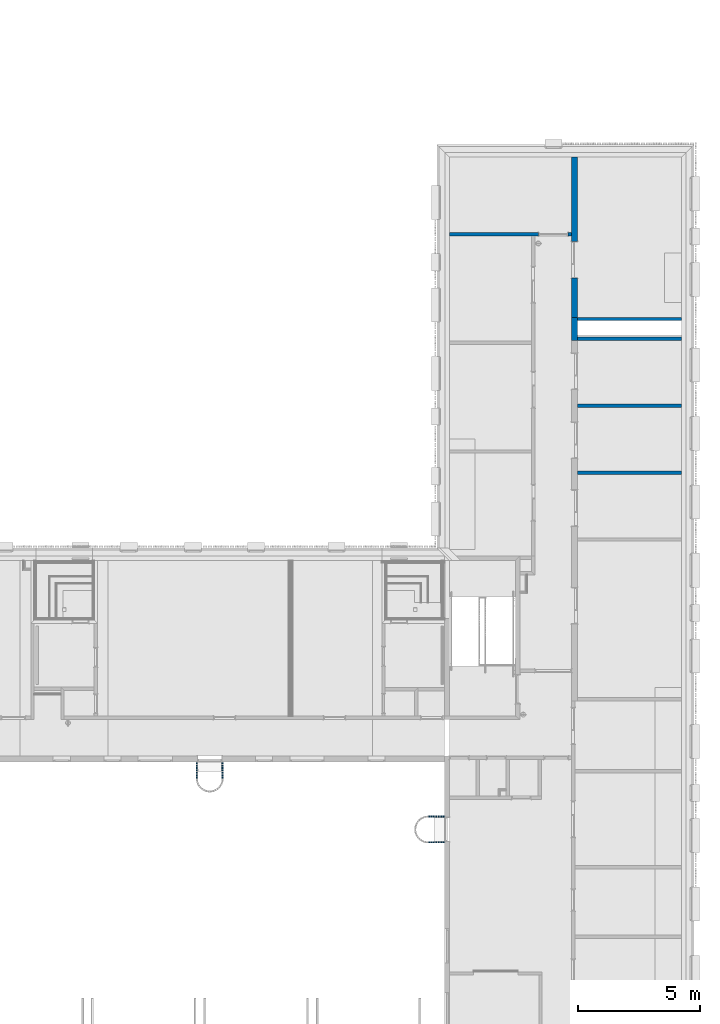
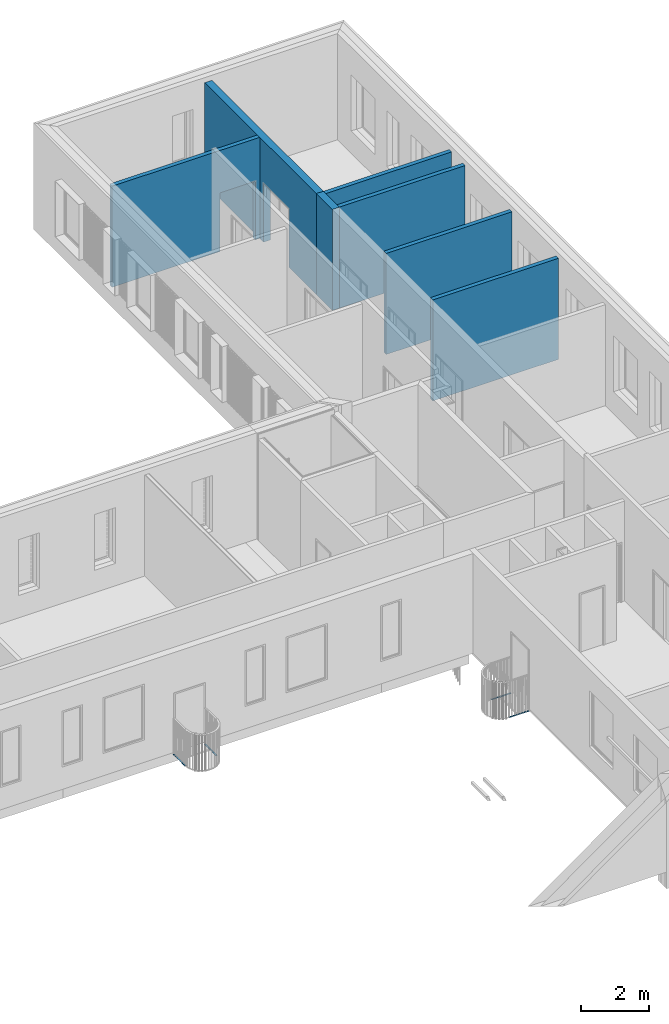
# One storey, part 13 of 100: 11 walls, 2 openings.
"""IFC2X3 building model written with IfcOpenShell, lengths in millimetres."""

from ifc_helpers import new_model, entity, si_unit, converted_unit, derived_unit, money_unit, direction, frame, origin_with_axes, origin_2d_with_axis, place, context, subcontext, project, spatial, polyline, rectangle, outline, extrude, material, layer, layer_set, layer_usage, type_object, element, save


model = new_model("IFC2X3")

# Units and contexts
model_context = context("Model", 3, precision=0.01, world=origin_with_axes(), true_north=direction((0.0, 1.0)))
body_context = subcontext(model_context, "Body", "Model", "MODEL_VIEW")
ifc_project = project(units=[si_unit("LENGTHUNIT", "METRE", prefix="MILLI"), si_unit("AREAUNIT", "SQUARE_METRE"), si_unit("VOLUMEUNIT", "CUBIC_METRE"), converted_unit("PLANEANGLEUNIT", "DEGREE", entity("IfcPlaneAngleMeasure", 0.0174532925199), si_unit("PLANEANGLEUNIT", "RADIAN"), dimensions=[0, 0, 0, 0, 0, 0, 0]), si_unit("SOLIDANGLEUNIT", "STERADIAN"), money_unit("EUR"), converted_unit("TIMEUNIT", "Year", entity("IfcTimeMeasure", 31556926.0), si_unit("TIMEUNIT", "SECOND"), dimensions=[0, 0, 1, 0, 0, 0, 0]), si_unit("MASSUNIT", "GRAM", prefix="KILO"), si_unit("THERMODYNAMICTEMPERATUREUNIT", "DEGREE_CELSIUS"), si_unit("LUMINOUSINTENSITYUNIT", "LUMEN"), si_unit("ENERGYUNIT", "JOULE", prefix="MEGA"), derived_unit("THERMALCONDUCTANCEUNIT", [(si_unit("POWERUNIT", "WATT"), 1), (si_unit("LENGTHUNIT", "METRE"), -1), (si_unit("THERMODYNAMICTEMPERATUREUNIT", "KELVIN"), -1)]), derived_unit("SPECIFICHEATCAPACITYUNIT", [(si_unit("ENERGYUNIT", "JOULE"), 1), (si_unit("MASSUNIT", "GRAM", prefix="KILO"), -1), (si_unit("THERMODYNAMICTEMPERATUREUNIT", "KELVIN"), -1)]), derived_unit("MASSDENSITYUNIT", [(si_unit("MASSUNIT", "GRAM", prefix="KILO"), 1), (si_unit("VOLUMEUNIT", "CUBIC_METRE"), -1)])], contexts=[model_context])

# Site, building, storey
site_placement = place(None, origin_with_axes())
site = spatial("IfcSite", under=ifc_project, at=site_placement, Name="Politse- ja Piirivalveameti ning Päästeameti ühishoone", CompositionType="ELEMENT")
building_placement = place(site_placement, origin_with_axes())
building = spatial("IfcBuilding", under=site, at=building_placement, Name="Politse- ja Piirivalveameti ning Päästeameti ühishoone", CompositionType="ELEMENT")
storey_placement = place(building_placement, frame((0.0, 0.0, 3800.0), z_axis=(0.0, 0.0, 1.0), x_axis=(1.0, 0.0, 0.0)))
storey = spatial("IfcBuildingStorey", under=building, at=storey_placement, Name="Teine korrus", CompositionType="ELEMENT", Elevation=3800.0)

# Wall, opening
ifc_material_1 = material(Name="KON-05_Betoon Plokk - Konstuktsioon")
ifc_layer_1 = layer(ifc_material_1, 240.0, ventilated="UNKNOWN")
ifc_layer_set_1 = layer_set([ifc_layer_1], Name="SS-04_Sisesein 240")
ifc_layer_usage_1 = layer_usage(ifc_layer_set_1, "AXIS2", "POSITIVE", 0.0)
wall_type_1 = type_object("IfcWallType", Name="SS-04_Sisesein 240 240", PredefinedType="NOTDEFINED")
wall_1_placement = place(storey_placement, frame((65160.5595507, 37499.9521318, 0.0), z_axis=(0.0, 0.0, 1.0), x_axis=(0.0, -1.0, 0.0)))
wall_1 = element("IfcWallStandardCase", 1, at=wall_1_placement, inside=storey, type_object=wall_type_1, material=ifc_layer_usage_1, Name="SS-04", context=body_context, shape_type="SweptSolid", body=[
    extrude(outline(polyline([(0.0, 0.0), (6550.14299276, 0.0), (6550.14299276, 240.0), (0.0, 240.0), (0.0, 0.0)])), origin_with_axes(), (0.0, 0.0, 1.0), 3620.0),
])
opening_1_placement = place(wall_1_placement, frame((4203.02359896, 0.0, 0.0), z_axis=(0.0, 0.0, 1.0), x_axis=(1.0, 0.0, 0.0)))
element("IfcOpeningElement", 2, at=opening_1_placement, cuts=wall_1, Name="SU-02-5", context=body_context, shape_type="SweptSolid", body=[
    extrude(rectangle(XDim=1500.0, YDim=2100.0, at=origin_2d_with_axis()), frame((0.0, 240.0, 1050.0), z_axis=(0.0, 1.0, 0.0), x_axis=(-1.0, 0.0, 0.0)), (0.0, 0.0, -1.0), 720.0),
    extrude(rectangle(XDim=1574.0, YDim=2137.0, at=origin_2d_with_axis()), frame((0.0, 240.0, 1068.5), z_axis=(0.0, 1.0, 0.0), x_axis=(-1.0, 0.0, 0.0)), (0.0, 0.0, 1.0), 240.0),
    extrude(rectangle(XDim=1574.0, YDim=2137.0, at=origin_2d_with_axis()), frame((0.0, 0.0, 1068.5), z_axis=(0.0, -1.0, 0.0), x_axis=(-1.0, 0.0, 0.0)), (0.0, 0.0, 1.0), 240.0),
])

# Wall
ifc_layer_usage_2 = layer_usage(ifc_layer_set_1, "AXIS2", "POSITIVE", 0.0)
wall_2_placement = place(storey_placement, frame((65160.5595507, 30949.809139, 0.0), z_axis=(0.0, 0.0, 1.0), x_axis=(0.0, -1.0, 0.0)))
element("IfcWallStandardCase", 3, at=wall_2_placement, inside=storey, type_object=wall_type_1, material=ifc_layer_usage_2, Name="SS-04", context=body_context, shape_type="SweptSolid", body=[
    extrude(outline(polyline([(0.0, 0.0), (940.0, 0.0), (940.0, 240.0), (0.0, 240.0), (0.0, 0.0)])), origin_with_axes(), (0.0, 0.0, 1.0), 3620.0),
])

# Wall, opening
ifc_layer_2 = layer(ifc_material_1, 140.0, ventilated="UNKNOWN")
ifc_layer_set_2 = layer_set([ifc_layer_2], Name="SS-02_Sisesein 140")
ifc_layer_usage_3 = layer_usage(ifc_layer_set_2, "AXIS2", "NEGATIVE", 0.0)
wall_type_2 = type_object("IfcWallType", Name="SS-02_Sisesein 140 140", PredefinedType="NOTDEFINED")
wall_3_placement = place(storey_placement, frame((60160.5519118, 34409.9754727, 0.0), z_axis=(0.0, 0.0, 1.0), x_axis=(1.0, 0.0, 0.0)))
wall_3 = element("IfcWallStandardCase", 4, at=wall_3_placement, inside=storey, type_object=wall_type_2, material=ifc_layer_usage_3, Name="SS-02", context=body_context, shape_type="SweptSolid", body=[
    extrude(outline(polyline([(0.0, -140.0), (5000.00763889, -140.0), (5000.00763889, 0.0), (0.0, 0.0), (0.0, -140.0)])), origin_with_axes(), (0.0, 0.0, 1.0), 3620.0),
])
opening_2_placement = place(wall_3_placement, frame((4249.74755766, 0.0, 0.0), z_axis=(0.0, 0.0, 1.0), x_axis=(1.0, 0.0, 0.0)))
element("IfcOpeningElement", 5, at=opening_2_placement, cuts=wall_3, Name="SU-02-6", context=body_context, shape_type="SweptSolid", body=[
    extrude(rectangle(XDim=1200.0, YDim=2100.0, at=origin_2d_with_axis()), frame((0.0, 140.0, 1050.0), z_axis=(0.0, 1.0, 0.0), x_axis=(-1.0, 0.0, 0.0)), (0.0, 0.0, -1.0), 420.0),
    extrude(rectangle(XDim=1274.0, YDim=2137.0, at=origin_2d_with_axis()), frame((0.0, 0.0, 1068.5), z_axis=(0.0, 1.0, 0.0), x_axis=(-1.0, 0.0, 0.0)), (0.0, 0.0, 1.0), 140.0),
    extrude(rectangle(XDim=1274.0, YDim=2137.0, at=origin_2d_with_axis()), frame((0.0, -140.0, 1068.5), z_axis=(0.0, -1.0, 0.0), x_axis=(-1.0, 0.0, 0.0)), (0.0, 0.0, 1.0), 140.0),
])

# Walls
ifc_layer_usage_4 = layer_usage(ifc_layer_set_2, "AXIS2", "NEGATIVE", 0.0)
wall_4_placement = place(storey_placement, frame((65160.5595507, 24669.809139, 0.0), z_axis=(0.0, 0.0, 1.0), x_axis=(1.0, 0.0, 0.0)))
element("IfcWallStandardCase", 6, at=wall_4_placement, inside=storey, type_object=wall_type_2, material=ifc_layer_usage_4, Name="SS-02", context=body_context, shape_type="SweptSolid", body=[
    extrude(outline(polyline([(240.0, -140.0), (4500.006875, -140.0), (4500.006875, 0.0), (240.0, 0.0), (240.0, -140.0)])), origin_with_axes(), (0.0, 0.0, 1.0), 3620.0),
])
ifc_layer_usage_5 = layer_usage(ifc_layer_set_2, "AXIS2", "NEGATIVE", 0.0)
wall_5_placement = place(storey_placement, frame((65160.5595507, 30149.809139, 0.0), z_axis=(0.0, 0.0, 1.0), x_axis=(1.0, 0.0, 0.0)))
element("IfcWallStandardCase", 7, at=wall_5_placement, inside=storey, type_object=wall_type_2, material=ifc_layer_usage_5, Name="SS-02", context=body_context, shape_type="SweptSolid", body=[
    extrude(outline(polyline([(240.0, -140.0), (4500.006875, -140.0), (4500.006875, 0.0), (240.0, 0.0), (240.0, -140.0)])), origin_with_axes(), (0.0, 0.0, 1.0), 3620.0),
])
ifc_layer_usage_6 = layer_usage(ifc_layer_set_2, "AXIS2", "NEGATIVE", 0.0)
wall_6_placement = place(storey_placement, frame((65160.5595507, 27409.809139, 0.0), z_axis=(0.0, 0.0, 1.0), x_axis=(1.0, 0.0, 0.0)))
element("IfcWallStandardCase", 8, at=wall_6_placement, inside=storey, type_object=wall_type_2, material=ifc_layer_usage_6, Name="SS-02", context=body_context, shape_type="SweptSolid", body=[
    extrude(outline(polyline([(240.0, -140.0), (4500.006875, -140.0), (4500.006875, 0.0), (240.0, 0.0), (240.0, -140.0)])), origin_with_axes(), (0.0, 0.0, 1.0), 3620.0),
])
ifc_layer_usage_7 = layer_usage(ifc_layer_set_2, "AXIS2", "NEGATIVE", 0.0)
wall_7_placement = place(storey_placement, frame((65160.5595507, 30949.809139, 0.0), z_axis=(0.0, 0.0, 1.0), x_axis=(1.0, 0.0, 0.0)))
element("IfcWallStandardCase", 9, at=wall_7_placement, inside=storey, type_object=wall_type_2, material=ifc_layer_usage_7, Name="SS-02", context=body_context, shape_type="SweptSolid", body=[
    extrude(outline(polyline([(0.0, -140.0), (4500.006875, -140.0), (4500.006875, 0.0), (0.0, 0.0), (0.0, -140.0)])), origin_with_axes(), (0.0, 0.0, 1.0), 3620.0),
])
ifc_material_2 = material(Name="ET-05_Teras")
ifc_layer_3 = layer(ifc_material_2, 50.0, ventilated="UNKNOWN")
ifc_layer_set_3 = layer_set([ifc_layer_3], Name="ET-05_Teras 50")
ifc_layer_usage_8 = layer_usage(ifc_layer_set_3, "AXIS2", "NEGATIVE", 0.0)
wall_type_3 = type_object("IfcWallType", Name="ET-05_Teras 50", PredefinedType="NOTDEFINED")
wall_8_placement = place(storey_placement, frame((49861.2823159, 12755.1907801, -63.7897243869), z_axis=(0.0, 0.0, 1.0), x_axis=(0.0, -1.0, 0.0)))
element("IfcWallStandardCase", 10, at=wall_8_placement, inside=storey, type_object=wall_type_3, material=ifc_layer_usage_8, Name="SS-17", context=body_context, shape_type="SweptSolid", body=[
    extrude(outline(polyline([(0.0, -50.0), (677.685889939, -50.0), (677.685889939, 0.0), (0.0, 0.0), (0.0, -50.0)])), origin_with_axes(), (0.0, 0.0, 1.0), 5.27072420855),
])
ifc_layer_usage_9 = layer_usage(ifc_layer_set_3, "AXIS2", "NEGATIVE", 0.0)
wall_9_placement = place(storey_placement, frame((50911.4935743, 12755.1907801, -63.7897243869), z_axis=(0.0, 0.0, 1.0), x_axis=(0.0, -1.0, 0.0)))
element("IfcWallStandardCase", 11, at=wall_9_placement, inside=storey, type_object=wall_type_3, material=ifc_layer_usage_9, Name="SS-17", context=body_context, shape_type="SweptSolid", body=[
    extrude(outline(polyline([(0.0, -50.0), (677.685889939, -50.0), (677.685889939, 0.0), (0.0, 0.0), (0.0, -50.0)])), origin_with_axes(), (0.0, 0.0, 1.0), 5.27072420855),
])
ifc_layer_usage_10 = layer_usage(ifc_layer_set_3, "AXIS2", "NEGATIVE", 0.0)
wall_10_placement = place(storey_placement, frame((59970.5519118, 9453.4159969, -63.7897243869), z_axis=(0.0, 0.0, 1.0), x_axis=(-1.0, 0.0, 0.0)))
element("IfcWallStandardCase", 12, at=wall_10_placement, inside=storey, type_object=wall_type_3, material=ifc_layer_usage_10, Name="SS-17", context=body_context, shape_type="SweptSolid", body=[
    extrude(outline(polyline([(5.0, -50.0), (677.685889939, -50.0), (677.685889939, 0.0), (5.0, 0.0), (5.0, -50.0)])), origin_with_axes(), (0.0, 0.0, 1.0), 4.78972438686),
])
ifc_layer_usage_11 = layer_usage(ifc_layer_set_3, "AXIS2", "NEGATIVE", 0.0)
wall_11_placement = place(storey_placement, frame((59970.5519118, 10503.6272553, -63.7897243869), z_axis=(0.0, 0.0, 1.0), x_axis=(-1.0, 0.0, 0.0)))
element("IfcWallStandardCase", 13, at=wall_11_placement, inside=storey, type_object=wall_type_3, material=ifc_layer_usage_11, Name="SS-17", context=body_context, shape_type="SweptSolid", body=[
    extrude(outline(polyline([(5.0, -50.0), (677.685889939, -50.0), (677.685889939, 0.0), (5.0, 0.0), (5.0, -50.0)])), origin_with_axes(), (0.0, 0.0, 1.0), 4.78972438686),
])

save(model, "model.ifc")
